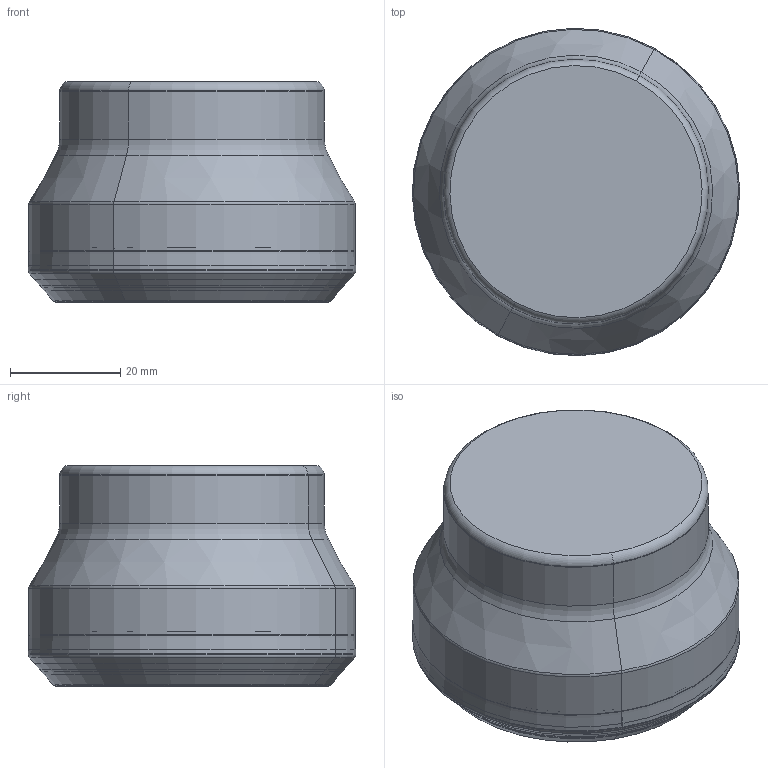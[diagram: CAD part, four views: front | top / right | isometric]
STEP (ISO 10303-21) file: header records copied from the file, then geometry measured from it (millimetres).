
FILE_DESCRIPTION(('CATIA V5 STEP Exchange'),'2;1');
FILE_NAME('I:\isr\design\admin8\users\shon_s\3106523.stp','2012-10-30T11:57:18+00:00',('none'),('none'),'CATIA Version 5 Release 21 SP 3 (IN-10)','CATIA V5 STEP AP214','none');
FILE_SCHEMA(('AUTOMOTIVE_DESIGN { 1 0 10303 214 1 1 1 1 }'));
Length unit declared in the file: millimetre
Products named in the file (1): 61056330_0 Assembly IQ845 FSY D050-05-22-R07
Bounding box: 59.38 x 59.38 x 40 mm (x, y, z)
Volume: 110100.5 mm3; surface area: 17167.5 mm2
Topology: 2 solids, 2 shells, 258 faces, 514 edges, 258 vertices
Faces by surface type: cone 218, torus 30, cylinder 8, plane 2
Entity records: 5742 total; most frequent: ORIENTED_EDGE 1028, CARTESIAN_POINT 905, DIRECTION 778, EDGE_CURVE 514, AXIS2_PLACEMENT_3D 421, CIRCLE 288, ADVANCED_FACE 258, EDGE_LOOP 258
